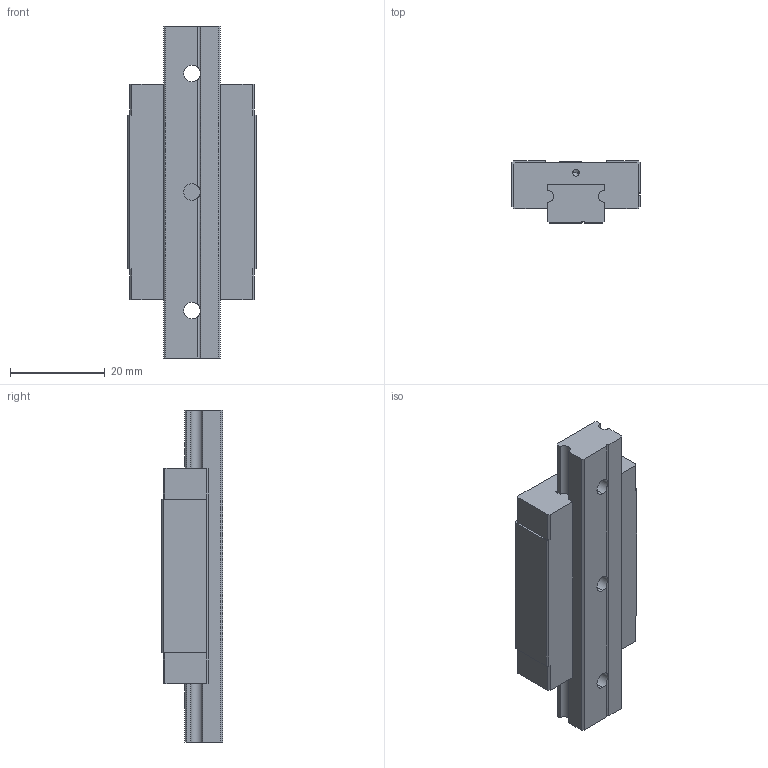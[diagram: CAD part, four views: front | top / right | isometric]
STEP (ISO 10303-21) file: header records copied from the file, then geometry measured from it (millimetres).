
FILE_DESCRIPTION (( 'STEP AP214' ), '1' );
FILE_NAME ('7.1058 Lineaarikelkka MTN12H.STEP', '2026-03-13T11:53:17', ( '' ), ( '' ), 'SwSTEP 2.0', 'SolidWorks 2025', '' );
FILE_SCHEMA (( 'AUTOMOTIVE_DESIGN' ));
Length unit declared in the file: millimetre
Products named in the file (1): 7.1058 Lineaarikelkka MTN12H
Bounding box: 27 x 13 x 70 mm (x, y, z)
Volume: 15224.8 mm3; surface area: 7922.2 mm2
Topology: 2 solids, 2 shells, 208 faces, 564 edges, 366 vertices
Faces by surface type: plane 141, cylinder 33, bspline 22, cone 12
Entity records: 10262 total; most frequent: CARTESIAN_POINT 2840, ORIENTED_EDGE 1104, DIRECTION 948, EDGE_CURVE 552, LINE 436, VECTOR 436, VERTEX_POINT 366, AXIS2_PLACEMENT_3D 256
